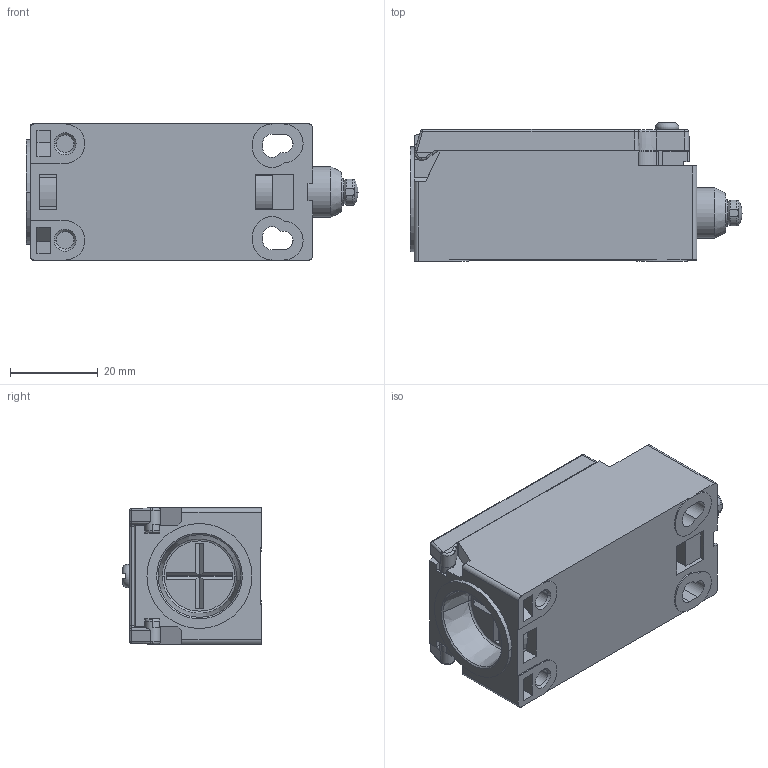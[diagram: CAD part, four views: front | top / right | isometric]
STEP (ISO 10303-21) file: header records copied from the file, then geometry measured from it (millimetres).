
FILE_DESCRIPTION(('FreeCAD Model'),'2;1');
FILE_NAME('Open CASCADE Shape Model','2026-09-09T09:41:07',(''),(''), 'Open CASCADE STEP processor 7.8','FreeCAD','Unknown');
FILE_SCHEMA(('AUTOMOTIVE_DESIGN { 1 0 10303 214 1 1 1 1 }'));
Length unit declared in the file: millimetre
Products named in the file (13): FS9611; 1; 2; 3; 4; 5; 6; 7; 8; 9; 10; 11; 12
Assembly tree (12 placements, depth 2):
  FS9611
    1
    2
    3
    4
    5
    6
    7
    8
    9
    10
    11
    12
Bounding box: 75.6 x 31.6 x 31.02 mm (x, y, z)
Volume: 25549.3 mm3; surface area: 25785 mm2
Topology: 11 solids, 12 shells, 858 faces, 2252 edges, 1451 vertices
Faces by surface type: plane 502, cylinder 240, cone 58, torus 24, bspline 22, sphere 12
Full cylindrical faces by diameter (mm): 2.8 x7, 4 x1, 6 x1, 10.6 x1, 11.5 x1, 11.6 x1, 13.3 x1, 14 x1
Entity records: 35326 total; most frequent: CARTESIAN_POINT 13705, ORIENTED_EDGE 4497, DIRECTION 4390, EDGE_CURVE 2250, AXIS2_PLACEMENT_3D 1465, LINE 1460, VECTOR 1460, VERTEX_POINT 1451
